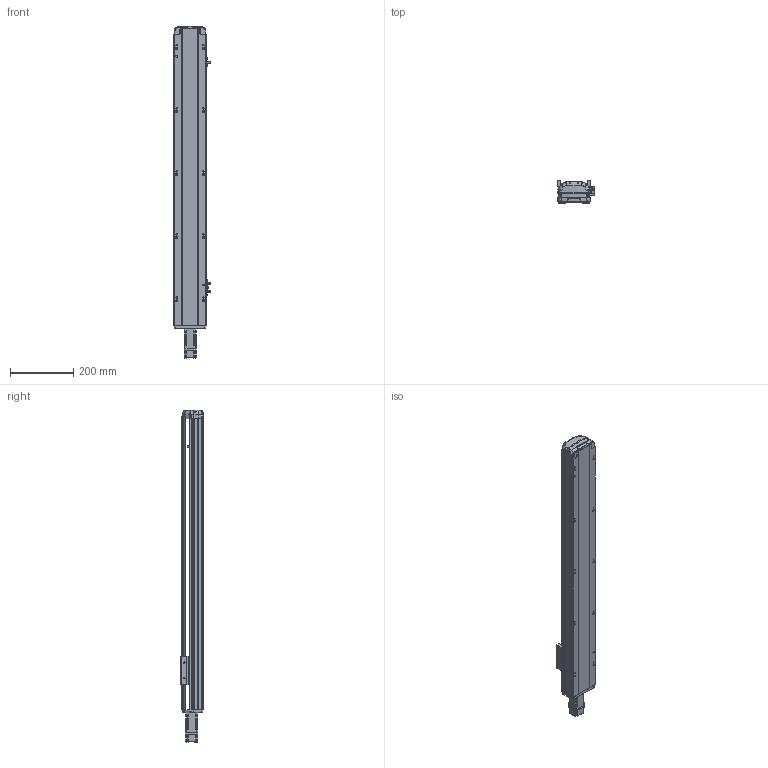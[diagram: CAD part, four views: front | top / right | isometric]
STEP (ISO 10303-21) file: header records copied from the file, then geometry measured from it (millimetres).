
FILE_DESCRIPTION (( 'STEP AP214' ), '1' );
FILE_NAME ('RTH10-XX-700-E-M10-C4.STEP', '2025-10-25T05:25:25', ( 'Microsoft' ), ( 'Microsoft' ), 'SwSTEP 2.0', 'SolidWorks 2018', '' );
FILE_SCHEMA (( 'AUTOMOTIVE_DESIGN' ));
Length unit declared in the file: millimetre
Products named in the file (9): N_P10^RTH10-XX-XX-E-M10-C4; N_RTH12-GY-004-賑釱^RTH10-XX-XX-E-M10-C4; N_RTH13-L-012覜茼え俋离^RTH10-XX-XX-E-M10-C4; N_OMRON EE-SX672 传感器^RTH10-XX-XX-E-M10-C4; N_RTH12-E-008-M10萇儂啣^RTH10-XX-XX-E-M10-C4; N_RTH12-E-011P-臏倰第菁釱^RTH10-XX-XX-E-M10-C4; N_RTH12-E-007P-奻裔^RTH10-XX-XX-E-M10-C4; N_RTH12-GY-001P^RTH10-XX-XX-E-M10-C4; RTH10-XX-700-E-M10-C4
Assembly tree (10 placements, depth 2):
  RTH10-XX-700-E-M10-C4
    N_RTH12-E-011P-臏倰第菁釱^RTH10-XX-XX-E-M10-C4
    N_RTH13-L-012覜茼え俋离^RTH10-XX-XX-E-M10-C4
    N_OMRON EE-SX672 传感器^RTH10-XX-XX-E-M10-C4  x3
    N_P10^RTH10-XX-XX-E-M10-C4
    N_RTH12-E-007P-奻裔^RTH10-XX-XX-E-M10-C4
    N_RTH12-E-008-M10萇儂啣^RTH10-XX-XX-E-M10-C4
    N_RTH12-GY-001P^RTH10-XX-XX-E-M10-C4
    N_RTH12-GY-004-賑釱^RTH10-XX-XX-E-M10-C4
Bounding box: 116.5 x 70 x 1053.34 mm (x, y, z)
Volume: 3825057.6 mm3; surface area: 606738.7 mm2
Topology: 9 solids, 11 shells, 1952 faces, 5431 edges, 3562 vertices
Faces by surface type: plane 972, cylinder 473, bspline 472, cone 33, torus 2
Entity records: 58639 total; most frequent: CARTESIAN_POINT 23254, ORIENTED_EDGE 7942, DIRECTION 6115, EDGE_CURVE 3977, VERTEX_POINT 2606, VECTOR 2101, LINE 2101, AXIS2_PLACEMENT_3D 2007
